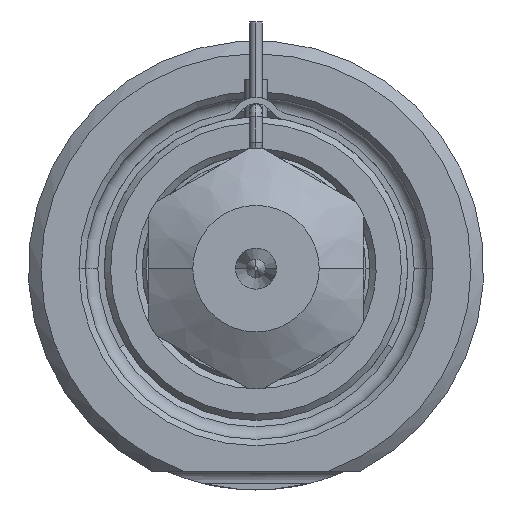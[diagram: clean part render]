
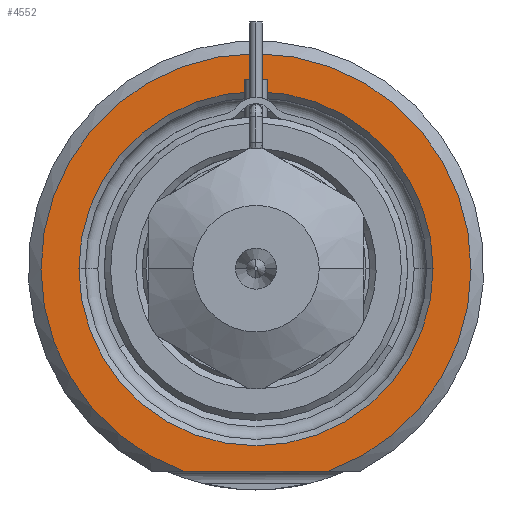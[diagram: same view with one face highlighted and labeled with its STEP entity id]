
A CAD part, front view. The second image highlights one B-rep face of the part: STEP entity #4552.
In plain terms, the highlighted planar face has unit normal (0, -1, 0).
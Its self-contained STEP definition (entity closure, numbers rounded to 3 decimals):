
#755=CARTESIAN_POINT('',(0.,0.,0.));
#756=DIRECTION('',(0.,-1.,0.));
#757=DIRECTION('',(0.338,0.,-0.941));
#758=AXIS2_PLACEMENT_3D('',#755,#756,#757);
#779=DIRECTION('',(1.,0.,0.));
#780=VECTOR('',#779,11.489);
#781=CARTESIAN_POINT('',(-5.745,0.,-16.));
#782=LINE('',#781,#780);
#783=CARTESIAN_POINT('',(0.,0.,0.));
#784=DIRECTION('',(0.,1.,0.));
#785=DIRECTION('',(-1.,0.,0.));
#786=AXIS2_PLACEMENT_3D('',#783,#784,#785);
#788=CARTESIAN_POINT('',(0.,0.,0.));
#789=DIRECTION('',(0.,1.,0.));
#790=DIRECTION('',(1.,0.,0.));
#791=AXIS2_PLACEMENT_3D('',#788,#789,#790);
#3113=CARTESIAN_POINT('',(-14.,0.,0.));
#3114=CARTESIAN_POINT('',(14.,0.,0.));
#3115=VERTEX_POINT('',#3113);
#3116=VERTEX_POINT('',#3114);
#3163=CARTESIAN_POINT('',(-5.745,0.,-16.));
#3164=CARTESIAN_POINT('',(5.745,0.,-16.));
#3165=VERTEX_POINT('',#3163);
#3166=VERTEX_POINT('',#3164);
#4537=CARTESIAN_POINT('',(0.,0.,0.));
#4538=DIRECTION('',(0.,-1.,0.));
#4539=DIRECTION('',(1.,0.,0.));
#4540=AXIS2_PLACEMENT_3D('',#4537,#4538,#4539);
#4541=PLANE('',#4540);
#4542=ORIENTED_EDGE('',*,*,#4469,.F.);
#4543=ORIENTED_EDGE('',*,*,#4529,.F.);
#4544=EDGE_LOOP('',(#4542,#4543));
#4545=FACE_OUTER_BOUND('',#4544,.F.);
#4547=ORIENTED_EDGE('',*,*,#4546,.F.);
#4549=ORIENTED_EDGE('',*,*,#4548,.F.);
#4550=EDGE_LOOP('',(#4547,#4549));
#4551=FACE_BOUND('',#4550,.F.);
#4552=ADVANCED_FACE('',(#4545,#4551),#4541,.T.);
#759=CIRCLE('',#758,17.);
#787=CIRCLE('',#786,14.);
#792=CIRCLE('',#791,14.);
#4469=EDGE_CURVE('',#3165,#3166,#782,.T.);
#4529=EDGE_CURVE('',#3166,#3165,#759,.T.);
#4546=EDGE_CURVE('',#3115,#3116,#787,.T.);
#4548=EDGE_CURVE('',#3116,#3115,#792,.T.);
